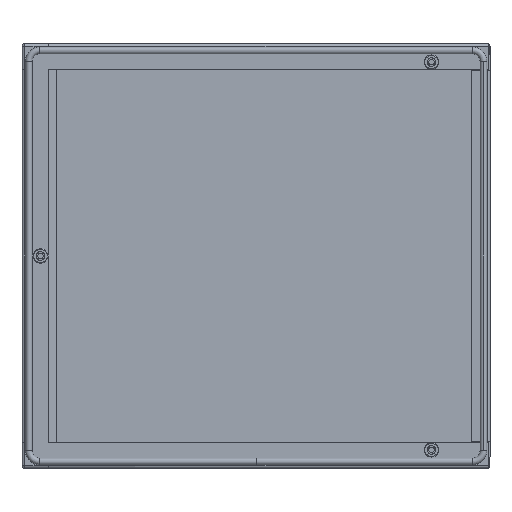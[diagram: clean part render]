
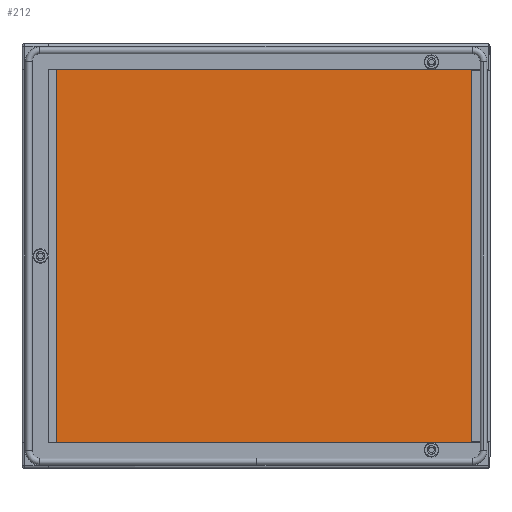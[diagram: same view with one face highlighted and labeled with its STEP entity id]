
A CAD part, left-side view. The second image highlights one B-rep face of the part: STEP entity #212.
In plain terms, the highlighted planar face has unit normal (-1, 0, 0).
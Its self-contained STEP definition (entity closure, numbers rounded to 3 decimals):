
#212 = ADVANCED_FACE ( 'NONE', ( #6092 ), #2787, .T. ) ;
#545 = CARTESIAN_POINT ( 'NONE',  ( -1.2, -193.8, -187.6 ) ) ;
#1013 = EDGE_CURVE ( 'NONE', #5192, #2640, #1088, .T. ) ;
#1054 = LINE ( 'NONE', #3875, #8675 ) ;
#1088 = LINE ( 'NONE', #545, #5516 ) ;
#1093 = DIRECTION ( 'NONE',  ( 0., 0., 1. ) ) ;
#1521 = VECTOR ( 'NONE', #8503, 1000. ) ;
#2045 = ORIENTED_EDGE ( 'NONE', *, *, #6445, .F. ) ;
#2308 = EDGE_CURVE ( 'NONE', #5045, #5192, #6178, .T. ) ;
#2321 = ORIENTED_EDGE ( 'NONE', *, *, #2308, .F. ) ;
#2640 = VERTEX_POINT ( 'NONE', #8070 ) ;
#2787 = PLANE ( 'NONE',  #2836 ) ;
#2836 = AXIS2_PLACEMENT_3D ( 'NONE', #6494, #7133, #3434 ) ;
#3017 = LINE ( 'NONE', #9320, #1521 ) ;
#3434 = DIRECTION ( 'NONE',  ( 0., 0., 1. ) ) ;
#3503 = DIRECTION ( 'NONE',  ( 0., 1., 0. ) ) ;
#3550 = CARTESIAN_POINT ( 'NONE',  ( -1.2, -193.8, 187.6 ) ) ;
#3842 = DIRECTION ( 'NONE',  ( 0., 0., -1. ) ) ;
#3875 = CARTESIAN_POINT ( 'NONE',  ( -1.2, 191.606, -188.5 ) ) ;
#4036 = VERTEX_POINT ( 'NONE', #9341 ) ;
#4567 = EDGE_CURVE ( 'NONE', #4036, #5045, #3017, .T. ) ;
#4570 = VECTOR ( 'NONE', #3842, 1000. ) ;
#4645 = CARTESIAN_POINT ( 'NONE',  ( -1.2, -193.8, 188.5 ) ) ;
#5045 = VERTEX_POINT ( 'NONE', #3550 ) ;
#5192 = VERTEX_POINT ( 'NONE', #5301 ) ;
#5301 = CARTESIAN_POINT ( 'NONE',  ( -1.2, -193.8, -187.6 ) ) ;
#5516 = VECTOR ( 'NONE', #3503, 1000. ) ;
#5828 = ORIENTED_EDGE ( 'NONE', *, *, #4567, .F. ) ;
#6092 = FACE_OUTER_BOUND ( 'NONE', #6698, .T. ) ;
#6178 = LINE ( 'NONE', #4645, #4570 ) ;
#6306 = ORIENTED_EDGE ( 'NONE', *, *, #1013, .F. ) ;
#6445 = EDGE_CURVE ( 'NONE', #2640, #4036, #1054, .T. ) ;
#6494 = CARTESIAN_POINT ( 'NONE',  ( -1.2, 0., 0. ) ) ;
#6698 = EDGE_LOOP ( 'NONE', ( #2045, #6306, #2321, #5828 ) ) ;
#7133 = DIRECTION ( 'NONE',  ( -1., 0., 0. ) ) ;
#8070 = CARTESIAN_POINT ( 'NONE',  ( -1.2, 191.606, -187.6 ) ) ;
#8503 = DIRECTION ( 'NONE',  ( 0., -1., 0. ) ) ;
#8675 = VECTOR ( 'NONE', #1093, 1000. ) ;
#9320 = CARTESIAN_POINT ( 'NONE',  ( -1.2, 191.606, 187.6 ) ) ;
#9341 = CARTESIAN_POINT ( 'NONE',  ( -1.2, 191.606, 187.6 ) ) ;
